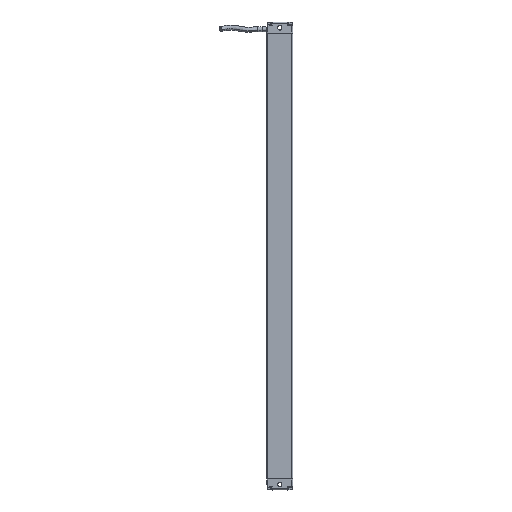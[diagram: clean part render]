
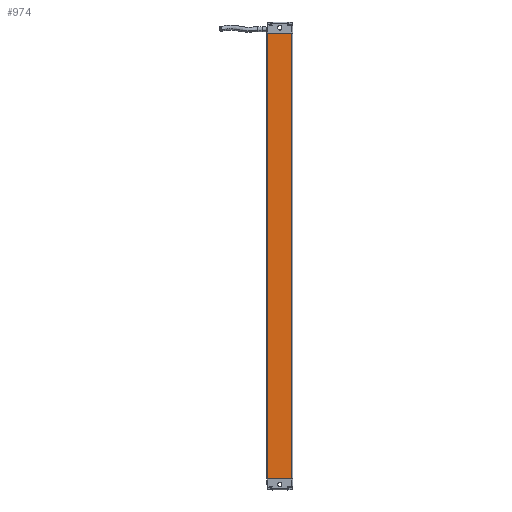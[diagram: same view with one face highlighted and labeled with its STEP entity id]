
A CAD part, front view. The second image highlights one B-rep face of the part: STEP entity #974.
In plain terms, the highlighted planar face has unit normal (-0.001, -1, 0).
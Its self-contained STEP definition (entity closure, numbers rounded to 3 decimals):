
#276=PLANE('',#14796);
#974=ADVANCED_FACE('',(#2037),#276,.T.);
#2037=FACE_OUTER_BOUND('',#2781,.T.);
#2781=EDGE_LOOP('',(#5152,#5153,#5154,#5155));
#5152=ORIENTED_EDGE('',*,*,#10430,.T.);
#5153=ORIENTED_EDGE('',*,*,#10431,.T.);
#5154=ORIENTED_EDGE('',*,*,#10432,.T.);
#5155=ORIENTED_EDGE('',*,*,#10347,.F.);
#8786=VERTEX_POINT('',#21092);
#8787=VERTEX_POINT('',#21094);
#8861=VERTEX_POINT('',#21258);
#8862=VERTEX_POINT('',#21262);
#10347=EDGE_CURVE('',#8786,#8787,#12284,.T.);
#10430=EDGE_CURVE('',#8786,#8861,#12341,.T.);
#10431=EDGE_CURVE('',#8861,#8862,#12342,.T.);
#10432=EDGE_CURVE('',#8862,#8787,#12343,.T.);
#12284=LINE('',#21093,#13499);
#12341=LINE('',#21259,#13556);
#12342=LINE('',#21261,#13557);
#12343=LINE('',#21263,#13558);
#13499=VECTOR('',#16521,1.);
#13556=VECTOR('',#16646,1.);
#13557=VECTOR('',#16649,1.);
#13558=VECTOR('',#16650,1.);
#14796=AXIS2_PLACEMENT_3D('',#21264,#16651,#16652);
#16521=DIRECTION('',(1.,-0.001,0.));
#16646=DIRECTION('',(0.,0.,-1.));
#16649=DIRECTION('',(1.,-0.001,0.));
#16650=DIRECTION('',(0.,0.,1.));
#16651=DIRECTION('',(-0.001,-1.,0.));
#16652=DIRECTION('',(1.,-0.001,0.));
#21092=CARTESIAN_POINT('',(53.048,-142.376,680.376));
#21093=CARTESIAN_POINT('',(79.028,-142.395,680.376));
#21094=CARTESIAN_POINT('',(79.028,-142.395,680.376));
#21258=CARTESIAN_POINT('',(53.048,-142.376,198.376));
#21259=CARTESIAN_POINT('',(53.048,-142.376,543.376));
#21261=CARTESIAN_POINT('',(53.048,-142.376,198.376));
#21262=CARTESIAN_POINT('',(79.028,-142.395,198.376));
#21263=CARTESIAN_POINT('',(79.028,-142.395,198.376));
#21264=CARTESIAN_POINT('',(79.028,-142.395,543.376));
